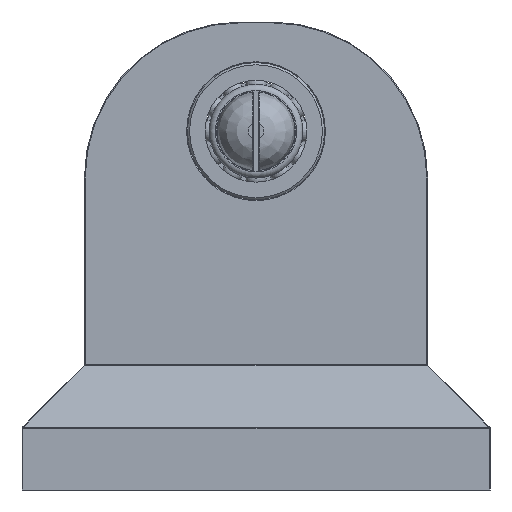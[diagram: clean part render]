
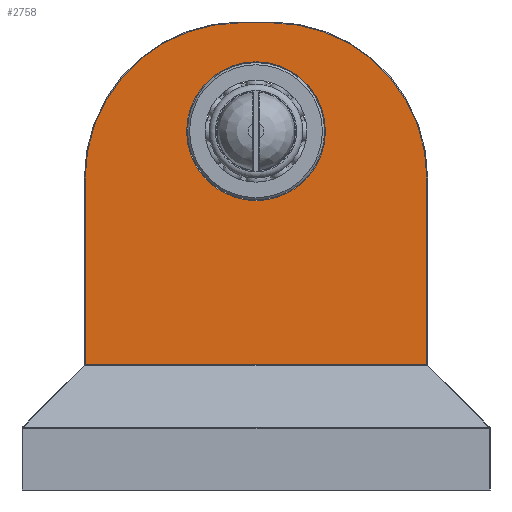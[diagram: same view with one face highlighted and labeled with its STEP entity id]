
A CAD part, left-side view. The second image highlights one B-rep face of the part: STEP entity #2758.
In plain terms, the highlighted planar face has unit normal (-1, 0, 0).
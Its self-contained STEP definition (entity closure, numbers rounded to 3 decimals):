
#214=FACE_BOUND('',#605,.T.);
#241=PLANE('',#3199);
#412=FACE_OUTER_BOUND('',#604,.T.);
#604=EDGE_LOOP('',(#2321,#2322,#2323,#2324,#2325,#2326));
#605=EDGE_LOOP('',(#2327));
#715=LINE('',#5787,#822);
#716=LINE('',#5789,#823);
#717=LINE('',#5791,#824);
#718=LINE('',#5795,#825);
#822=VECTOR('',#3983,10.);
#823=VECTOR('',#3984,10.);
#824=VECTOR('',#3985,10.);
#825=VECTOR('',#3988,10.);
#1073=CIRCLE('',#3195,11.125);
#1076=CIRCLE('',#3200,24.875);
#1077=CIRCLE('',#3201,24.875);
#1344=VERTEX_POINT('',#5775);
#1347=VERTEX_POINT('',#5785);
#1348=VERTEX_POINT('',#5786);
#1349=VERTEX_POINT('',#5788);
#1350=VERTEX_POINT('',#5790);
#1351=VERTEX_POINT('',#5792);
#1352=VERTEX_POINT('',#5794);
#1682=EDGE_CURVE('',#1344,#1344,#1073,.T.);
#1687=EDGE_CURVE('',#1347,#1348,#715,.T.);
#1688=EDGE_CURVE('',#1349,#1347,#716,.T.);
#1689=EDGE_CURVE('',#1350,#1349,#717,.T.);
#1690=EDGE_CURVE('',#1351,#1350,#1076,.T.);
#1691=EDGE_CURVE('',#1352,#1351,#718,.T.);
#1692=EDGE_CURVE('',#1348,#1352,#1077,.T.);
#2321=ORIENTED_EDGE('',*,*,#1687,.F.);
#2322=ORIENTED_EDGE('',*,*,#1688,.F.);
#2323=ORIENTED_EDGE('',*,*,#1689,.F.);
#2324=ORIENTED_EDGE('',*,*,#1690,.F.);
#2325=ORIENTED_EDGE('',*,*,#1691,.F.);
#2326=ORIENTED_EDGE('',*,*,#1692,.F.);
#2327=ORIENTED_EDGE('',*,*,#1682,.F.);
#2758=ADVANCED_FACE('',(#412,#214),#241,.T.);
#3195=AXIS2_PLACEMENT_3D('',#5776,#3971,#3972);
#3199=AXIS2_PLACEMENT_3D('',#5784,#3981,#3982);
#3200=AXIS2_PLACEMENT_3D('',#5793,#3986,#3987);
#3201=AXIS2_PLACEMENT_3D('',#5796,#3989,#3990);
#3971=DIRECTION('center_axis',(-1.,0.,0.));
#3972=DIRECTION('ref_axis',(0.,1.,0.));
#3981=DIRECTION('center_axis',(-1.,0.,0.));
#3982=DIRECTION('ref_axis',(0.,-1.,0.));
#3983=DIRECTION('',(0.,0.,1.));
#3984=DIRECTION('',(0.,1.,0.));
#3985=DIRECTION('',(0.,0.,-1.));
#3986=DIRECTION('center_axis',(1.,0.,0.));
#3987=DIRECTION('ref_axis',(0.,-0.707,0.707));
#3988=DIRECTION('',(0.,-1.,0.));
#3989=DIRECTION('center_axis',(1.,0.,0.));
#3990=DIRECTION('ref_axis',(0.,0.707,0.707));
#5775=CARTESIAN_POINT('',(32.875,-48.625,57.5));
#5776=CARTESIAN_POINT('Origin',(32.875,-37.5,57.5));
#5784=CARTESIAN_POINT('Origin',(32.875,-10.,10.));
#5785=CARTESIAN_POINT('',(32.875,-10.125,20.052));
#5786=CARTESIAN_POINT('',(32.875,-10.125,50.));
#5787=CARTESIAN_POINT('',(32.875,-10.125,10.));
#5788=CARTESIAN_POINT('',(32.875,-64.875,20.052));
#5789=CARTESIAN_POINT('',(32.875,-16.875,20.052));
#5790=CARTESIAN_POINT('',(32.875,-64.875,50.));
#5791=CARTESIAN_POINT('',(32.875,-64.875,10.));
#5792=CARTESIAN_POINT('',(32.875,-40.,74.875));
#5793=CARTESIAN_POINT('Origin',(32.875,-40.,50.));
#5794=CARTESIAN_POINT('',(32.875,-35.,74.875));
#5795=CARTESIAN_POINT('',(32.875,-23.75,74.875));
#5796=CARTESIAN_POINT('Origin',(32.875,-35.,50.));
